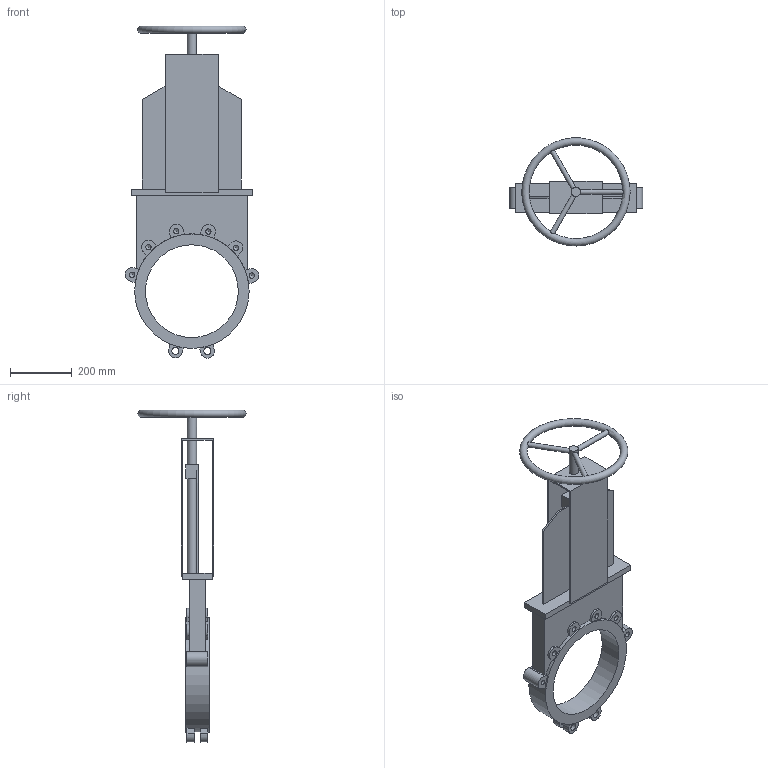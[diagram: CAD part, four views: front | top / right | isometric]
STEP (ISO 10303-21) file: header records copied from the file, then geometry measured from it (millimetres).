
FILE_DESCRIPTION(('STEP AP203'), '1');
FILE_NAME('Çàäâèæêà øèáåðíàÿ ìåæôëàíöåâàÿ K51GV DN300', '', ('UNSPECIFIED'), ('UNSPECIFIED'), 'ASCON STEP Converter 1.6', 'ASCON Math Kernel', '');
FILE_SCHEMA(('CONFIG_CONTROL_DESIGN'));
Length unit declared in the file: millimetre
Bounding box: 431.19 x 349.38 x 1073 mm (x, y, z)
Volume: 9353828 mm3; surface area: 1171352.4 mm2
Topology: 1 solids, 1 shells, 135 faces, 370 edges, 241 vertices
Faces by surface type: plane 84, cylinder 38, cone 12, torus 1
Full cylindrical faces by diameter (mm): 16 x3, 17.294 x12, 23 x4, 30 x3, 300 x1, 370 x1
Entity records: 6270 total; most frequent: CARTESIAN_POINT 1850, DIRECTION 684, ORIENTED_EDGE 636, EDGE_CURVE 318, AXIS2_PLACEMENT_3D 238, VERTEX_POINT 228, LINE 208, VECTOR 208
